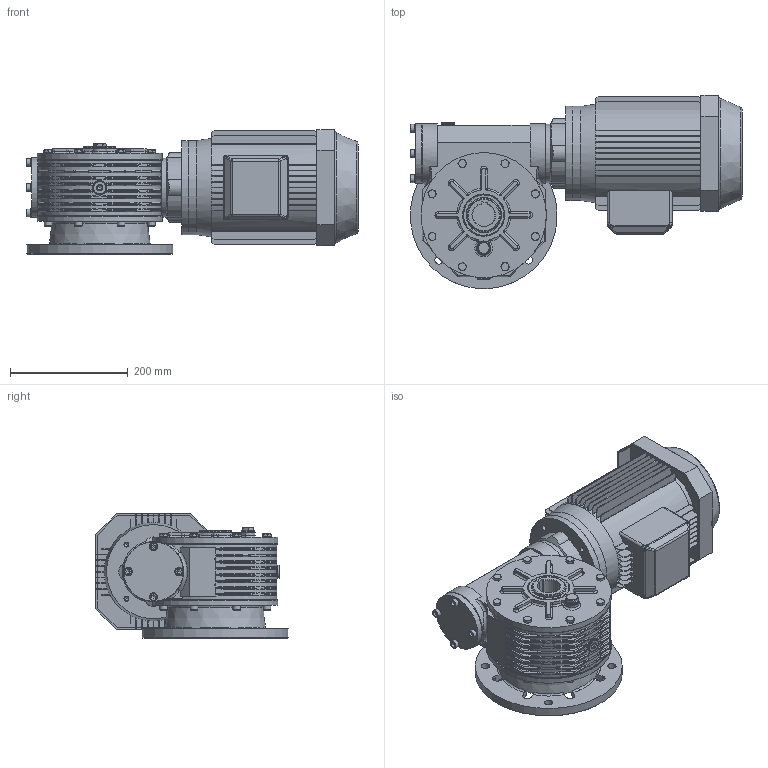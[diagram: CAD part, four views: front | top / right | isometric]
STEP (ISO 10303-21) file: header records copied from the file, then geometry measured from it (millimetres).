
FILE_DESCRIPTION((''),'2;1');
FILE_NAME('Y:\Archivi Inventor\Prog_01\GRAND_50\complessivi\Figurini\MRV50 sito\100l\mrv50_F1_100L_B14.stp','2013-02-08T10:40:17',('tech3'),(''),'Autodesk Inventor 2013','Autodesk Inventor 2013','');
FILE_SCHEMA(('AUTOMOTIVE_DESIGN { 1 0 10303 214 1 1 1 1 }'));
Length unit declared in the file: millimetre
Products named in the file (20): mrv50_100_112_b14; mrv50_fig; Figurino_carcassa_MRV50; 0105028; 0105029; figurino_corona_MRV50; Guarnizione 3_8 GAS; Tappo 3_8 GAS_esagn_incsst; figurino_0105009; ISO 4017 M8 x 20; 55_70_8; fig_0105002; figurino_0105003; ISO 4762 M8 x 16; Tappo3_8 GAS; UNI 6592 8.4 x 14; UNI 5931  M 8 x  25; 0105006; DIN EN ISO 4762 M8 x 20; motori B14 100
Assembly tree (48 placements, depth 3):
  mrv50_100_112_b14
    mrv50_fig
      Figurino_carcassa_MRV50
      0105028  x2
      0105029  x2
      figurino_corona_MRV50
      Guarnizione 3_8 GAS  x3
      Tappo 3_8 GAS_esagn_incsst  x2
      figurino_0105009
      ISO 4017 M8 x 20  x8
      55_70_8  x2
      fig_0105002
      figurino_0105003
      ISO 4762 M8 x 16  x8
      Tappo3_8 GAS
      UNI 6592 8.4 x 14  x4
      UNI 5931  M 8 x  25  x4
    0105006
    DIN EN ISO 4762 M8 x 20  x4
    motori B14 100
Bounding box: 564.8 x 328.07 x 211.9 mm (x, y, z)
Volume: 12875149.6 mm3; surface area: 1333700.5 mm2
Topology: 59 solids, 65 shells, 2204 faces, 5406 edges, 3230 vertices
Faces by surface type: plane 902, cylinder 666, torus 221, cone 193, bspline 156, sphere 66
Full cylindrical faces by diameter (mm): 2 x2, 6.647 x28, 8 x26, 8.4 x4, 8.5 x52, 11.63 x8, 13 x20, 13.046 x1, 14 x8, 14.95 x3, 16.3 x3, 16.5 x2, 22 x6, 24 x2, 28 x1, 55 x1, 60 x1, 66.4 x2, 69 x2, 70 x5, 72 x4, 73 x2, 75 x1, 80 x1, 90 x1, 99.5 x2, 100 x1, 101 x1, 102 x2, 110 x2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
Entity records: 61739 total; most frequent: CARTESIAN_POINT 20106, DIRECTION 8612, ORIENTED_EDGE 8064, EDGE_CURVE 4032, AXIS2_PLACEMENT_3D 3421, VERTEX_POINT 2605, EDGE_LOOP 2181, VECTOR 1770
